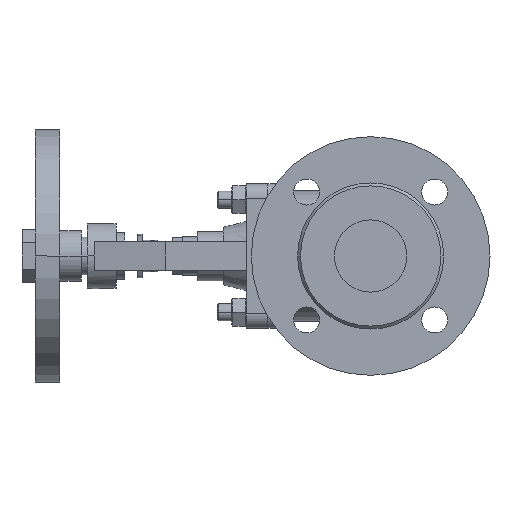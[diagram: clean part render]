
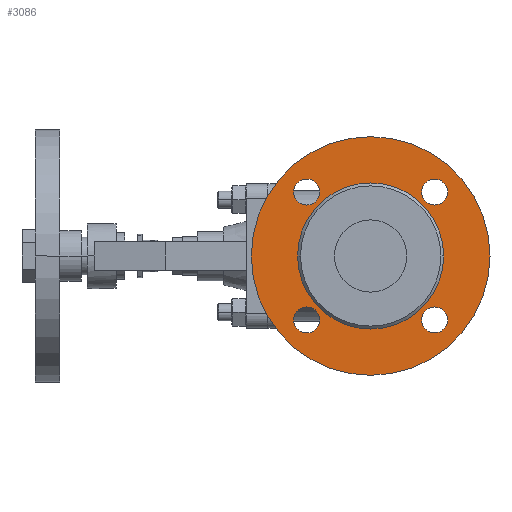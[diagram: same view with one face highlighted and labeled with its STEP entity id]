
A CAD part, left-side view. The second image highlights one B-rep face of the part: STEP entity #3086.
In plain terms, the highlighted planar face has unit normal (-1, 0, 0).
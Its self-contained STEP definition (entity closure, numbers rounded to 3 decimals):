
#1092=CARTESIAN_POINT('',(-112.,0.,0.));
#1093=DIRECTION('',(-1.,0.,0.));
#1094=DIRECTION('',(0.,1.,0.));
#1095=AXIS2_PLACEMENT_3D('',#1092,#1093,#1094);
#1097=CARTESIAN_POINT('',(-112.,0.,0.));
#1098=DIRECTION('',(-1.,0.,0.));
#1099=DIRECTION('',(0.,-1.,0.));
#1100=AXIS2_PLACEMENT_3D('',#1097,#1098,#1099);
#1102=CARTESIAN_POINT('',(-112.,0.,0.));
#1103=DIRECTION('',(-1.,0.,0.));
#1104=DIRECTION('',(0.,1.,0.));
#1105=AXIS2_PLACEMENT_3D('',#1102,#1103,#1104);
#1107=CARTESIAN_POINT('',(-112.,0.,0.));
#1108=DIRECTION('',(-1.,0.,0.));
#1109=DIRECTION('',(0.,-1.,0.));
#1110=AXIS2_PLACEMENT_3D('',#1107,#1108,#1109);
#1112=CARTESIAN_POINT('',(-112.,-44.194,-44.194));
#1113=DIRECTION('',(-1.,0.,0.));
#1114=DIRECTION('',(0.,1.,0.));
#1115=AXIS2_PLACEMENT_3D('',#1112,#1113,#1114);
#1117=CARTESIAN_POINT('',(-112.,-44.194,-44.194));
#1118=DIRECTION('',(-1.,0.,0.));
#1119=DIRECTION('',(0.,-1.,0.));
#1120=AXIS2_PLACEMENT_3D('',#1117,#1118,#1119);
#1122=CARTESIAN_POINT('',(-112.,-44.194,44.194));
#1123=DIRECTION('',(-1.,0.,0.));
#1124=DIRECTION('',(0.,0.,-1.));
#1125=AXIS2_PLACEMENT_3D('',#1122,#1123,#1124);
#1127=CARTESIAN_POINT('',(-112.,-44.194,44.194));
#1128=DIRECTION('',(-1.,0.,0.));
#1129=DIRECTION('',(0.,0.,1.));
#1130=AXIS2_PLACEMENT_3D('',#1127,#1128,#1129);
#1132=CARTESIAN_POINT('',(-112.,44.194,44.194));
#1133=DIRECTION('',(-1.,0.,0.));
#1134=DIRECTION('',(0.,-1.,0.));
#1135=AXIS2_PLACEMENT_3D('',#1132,#1133,#1134);
#1137=CARTESIAN_POINT('',(-112.,44.194,44.194));
#1138=DIRECTION('',(-1.,0.,0.));
#1139=DIRECTION('',(0.,1.,0.));
#1140=AXIS2_PLACEMENT_3D('',#1137,#1138,#1139);
#1142=CARTESIAN_POINT('',(-112.,44.194,-44.194));
#1143=DIRECTION('',(-1.,0.,0.));
#1144=DIRECTION('',(0.,0.,1.));
#1145=AXIS2_PLACEMENT_3D('',#1142,#1143,#1144);
#1147=CARTESIAN_POINT('',(-112.,44.194,-44.194));
#1148=DIRECTION('',(-1.,0.,0.));
#1149=DIRECTION('',(0.,0.,-1.));
#1150=AXIS2_PLACEMENT_3D('',#1147,#1148,#1149);
#1292=CARTESIAN_POINT('',(-112.,82.5,0.));
#1293=CARTESIAN_POINT('',(-112.,-82.5,0.));
#1294=VERTEX_POINT('',#1292);
#1295=VERTEX_POINT('',#1293);
#1300=CARTESIAN_POINT('',(-112.,50.5,0.));
#1301=CARTESIAN_POINT('',(-112.,-50.5,0.));
#1302=VERTEX_POINT('',#1300);
#1303=VERTEX_POINT('',#1301);
#1312=CARTESIAN_POINT('',(-112.,-35.194,-44.194));
#1313=CARTESIAN_POINT('',(-112.,-53.194,-44.194));
#1314=VERTEX_POINT('',#1312);
#1315=VERTEX_POINT('',#1313);
#1320=CARTESIAN_POINT('',(-112.,-44.194,35.194));
#1321=CARTESIAN_POINT('',(-112.,-44.194,53.194));
#1322=VERTEX_POINT('',#1320);
#1323=VERTEX_POINT('',#1321);
#1328=CARTESIAN_POINT('',(-112.,35.194,44.194));
#1329=CARTESIAN_POINT('',(-112.,53.194,44.194));
#1330=VERTEX_POINT('',#1328);
#1331=VERTEX_POINT('',#1329);
#1336=CARTESIAN_POINT('',(-112.,44.194,-35.194));
#1337=CARTESIAN_POINT('',(-112.,44.194,-53.194));
#1338=VERTEX_POINT('',#1336);
#1339=VERTEX_POINT('',#1337);
#3046=CARTESIAN_POINT('',(-112.,0.,0.));
#3047=DIRECTION('',(-1.,0.,0.));
#3048=DIRECTION('',(0.,1.,0.));
#3049=AXIS2_PLACEMENT_3D('',#3046,#3047,#3048);
#3050=PLANE('',#3049);
#3051=ORIENTED_EDGE('',*,*,#3036,.F.);
#3053=ORIENTED_EDGE('',*,*,#3052,.F.);
#3054=EDGE_LOOP('',(#3051,#3053));
#3055=FACE_OUTER_BOUND('',#3054,.F.);
#3057=ORIENTED_EDGE('',*,*,#3056,.T.);
#3059=ORIENTED_EDGE('',*,*,#3058,.T.);
#3060=EDGE_LOOP('',(#3057,#3059));
#3061=FACE_BOUND('',#3060,.F.);
#3063=ORIENTED_EDGE('',*,*,#3062,.T.);
#3065=ORIENTED_EDGE('',*,*,#3064,.T.);
#3066=EDGE_LOOP('',(#3063,#3065));
#3067=FACE_BOUND('',#3066,.F.);
#3069=ORIENTED_EDGE('',*,*,#3068,.T.);
#3071=ORIENTED_EDGE('',*,*,#3070,.T.);
#3072=EDGE_LOOP('',(#3069,#3071));
#3073=FACE_BOUND('',#3072,.F.);
#3075=ORIENTED_EDGE('',*,*,#3074,.T.);
#3077=ORIENTED_EDGE('',*,*,#3076,.T.);
#3078=EDGE_LOOP('',(#3075,#3077));
#3079=FACE_BOUND('',#3078,.F.);
#3081=ORIENTED_EDGE('',*,*,#3080,.T.);
#3083=ORIENTED_EDGE('',*,*,#3082,.T.);
#3084=EDGE_LOOP('',(#3081,#3083));
#3085=FACE_BOUND('',#3084,.F.);
#3086=ADVANCED_FACE('',(#3055,#3061,#3067,#3073,#3079,#3085),#3050,.T.);
#1096=CIRCLE('',#1095,82.5);
#1101=CIRCLE('',#1100,82.5);
#1106=CIRCLE('',#1105,50.5);
#1111=CIRCLE('',#1110,50.5);
#1116=CIRCLE('',#1115,9.);
#1121=CIRCLE('',#1120,9.);
#1126=CIRCLE('',#1125,9.);
#1131=CIRCLE('',#1130,9.);
#1136=CIRCLE('',#1135,9.);
#1141=CIRCLE('',#1140,9.);
#1146=CIRCLE('',#1145,9.);
#1151=CIRCLE('',#1150,9.);
#3036=EDGE_CURVE('',#1294,#1295,#1096,.T.);
#3052=EDGE_CURVE('',#1295,#1294,#1101,.T.);
#3056=EDGE_CURVE('',#1302,#1303,#1106,.T.);
#3058=EDGE_CURVE('',#1303,#1302,#1111,.T.);
#3062=EDGE_CURVE('',#1314,#1315,#1116,.T.);
#3064=EDGE_CURVE('',#1315,#1314,#1121,.T.);
#3068=EDGE_CURVE('',#1322,#1323,#1126,.T.);
#3070=EDGE_CURVE('',#1323,#1322,#1131,.T.);
#3074=EDGE_CURVE('',#1330,#1331,#1136,.T.);
#3076=EDGE_CURVE('',#1331,#1330,#1141,.T.);
#3080=EDGE_CURVE('',#1338,#1339,#1146,.T.);
#3082=EDGE_CURVE('',#1339,#1338,#1151,.T.);
